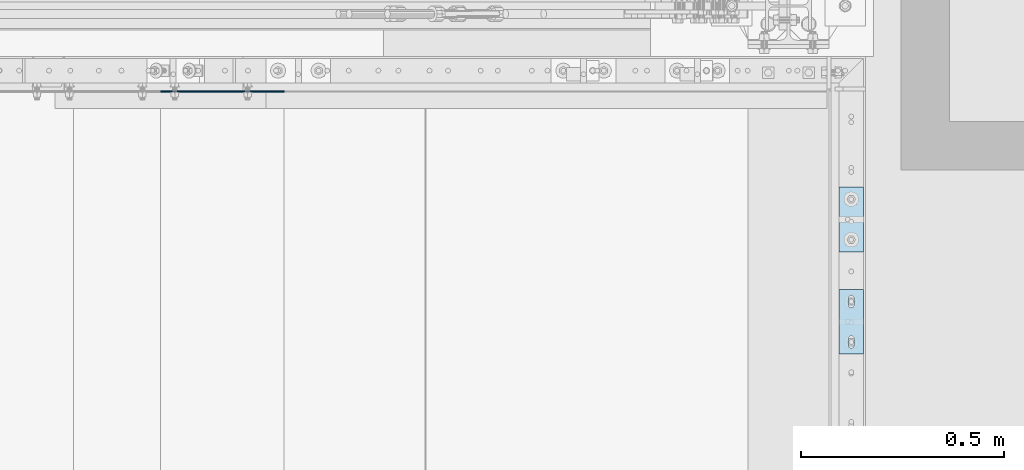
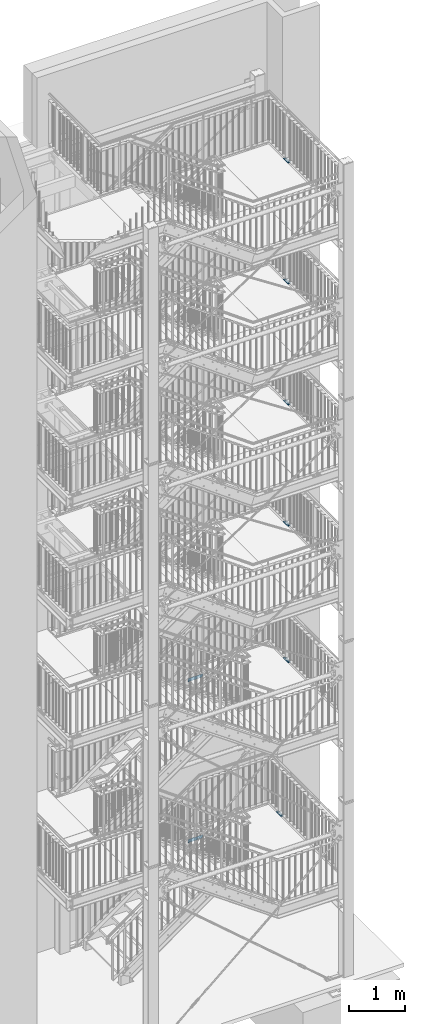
# One storey, part 206 of 825: 8 plates, 16 openings.
"""IFC2X3 building model written with IfcOpenShell, lengths in millimetres."""

from ifc_helpers import new_model, entity, si_unit, converted_unit, point, frame, frame_2d, origin, origin_with_axes, origin_2d_with_axis, place, context, project, spatial, polyline, circle_curve, line_curve, trimmed, segment, composite_curve, circle, outline, extrude, material, layer, layer_set, element, save


model = new_model("IFC2X3")

# Units and contexts
model_context = context("Model", 3, precision=1e-09, world=origin_with_axes())
ifc_project = project(units=[si_unit("LENGTHUNIT", "METRE", prefix="MILLI"), si_unit("AREAUNIT", "SQUARE_METRE"), si_unit("VOLUMEUNIT", "CUBIC_METRE"), converted_unit("PLANEANGLEUNIT", "DEGREE", entity("IfcPlaneAngleMeasure", 0.01745329), si_unit("PLANEANGLEUNIT", "RADIAN"), dimensions=[0, 0, 0, 0, 0, 0, 0])], contexts=[model_context])

# Site, building, storey
site_placement = place(None, origin_with_axes())
site = spatial("IfcSite", under=ifc_project, at=site_placement, Name="Cnopf'sche Kinderklinik", CompositionType="ELEMENT")
building_placement = place(site_placement, origin_with_axes())
building = spatial("IfcBuilding", under=site, at=building_placement, Name="Struktur 1", CompositionType="ELEMENT")
storey_placement = place(building_placement, origin_with_axes())
storey = spatial("IfcBuildingStorey", under=building, at=storey_placement, Name="Default Storey", CompositionType="ELEMENT", Elevation=0.0)

# Plate, openings
ifc_material = material(Name="S235JR")
ifc_layer_1 = layer(ifc_material, 20.0)
ifc_layer_set_1 = layer_set([ifc_layer_1], Name="S235JR")
plate_1_placement = place(None, frame((9051.713402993, 6909.429031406, 2181.0526312), z_axis=(0.0, 0.0, 1.0), x_axis=(0.0, 1.0, 0.0)))
plate_1 = element("IfcPlate", 1, at=plate_1_placement, inside=storey, material=ifc_layer_set_1, Name="Plate#504", ObjectType="Plate#504", context=model_context, shape_type="SweptSolid", body=[
    extrude(outline(polyline([(0.0, 0.0), (160.0, 0.0), (160.0, 60.0), (0.0, 60.0), (0.0, 0.0)])), origin_with_axes(), (0.0, 0.0, 1.0), 20.0),
])
opening_1_placement = place(plate_1_placement, frame((38.0, 37.001, 20.5), z_axis=(0.0, 0.0, 1.0), x_axis=(-1.0, 0.0, 0.0)))
element("IfcOpeningElement", 2, at=opening_1_placement, cuts=plate_1, ObjectType="Opening", context=model_context, shape_type="SweptSolid", body=[
    extrude(outline(composite_curve([segment(trimmed(line_curve((0.0, 0.0), (1.0, 0.0), 16.0), [point((0.0, 0.0))], [point((16.0, 0.0))], True, "CARTESIAN"), True, "CONTINUOUS"), segment(trimmed(circle_curve(frame_2d((16.0, 7.001), x_axis=(1.0, 0.0)), 7.001), [point((16.0, 0.0))], [point((16.0, 14.002))], True, "CARTESIAN"), True, "CONTINUOUS"), segment(trimmed(line_curve((16.0, 14.002), (-1.0, 0.0), 16.0), [point((16.0, 14.002))], [point((0.0, 14.002))], True, "CARTESIAN"), True, "CONTINUOUS"), segment(trimmed(circle_curve(frame_2d((0.0, 7.001), x_axis=(1.0, 0.0)), 7.001), [point((0.0, 14.002))], [point((0.0, 0.0))], True, "CARTESIAN"), True, "CONTINUOUS")], self_intersect=False)), origin(), (0.0, 0.0, -1.0), 21.0),
])
opening_2_placement = place(plate_1_placement, frame((138.0, 37.001, 20.5), z_axis=(0.0, 0.0, 1.0), x_axis=(-1.0, 0.0, 0.0)))
element("IfcOpeningElement", 3, at=opening_2_placement, cuts=plate_1, ObjectType="Opening", context=model_context, shape_type="SweptSolid", body=[
    extrude(outline(composite_curve([segment(trimmed(line_curve((0.0, 0.0), (1.0, 0.0), 16.0), [point((0.0, 0.0))], [point((16.0, 0.0))], True, "CARTESIAN"), True, "CONTINUOUS"), segment(trimmed(circle_curve(frame_2d((16.0, 7.001), x_axis=(1.0, 0.0)), 7.001), [point((16.0, 0.0))], [point((16.0, 14.002))], True, "CARTESIAN"), True, "CONTINUOUS"), segment(trimmed(line_curve((16.0, 14.002), (-1.0, 0.0), 16.0), [point((16.0, 14.002))], [point((0.0, 14.002))], True, "CARTESIAN"), True, "CONTINUOUS"), segment(trimmed(circle_curve(frame_2d((0.0, 7.001), x_axis=(1.0, 0.0)), 7.001), [point((0.0, 14.002))], [point((0.0, 0.0))], True, "CARTESIAN"), True, "CONTINUOUS")], self_intersect=False)), origin(), (0.0, 0.0, -1.0), 21.0),
])

plate_2_placement = place(None, frame((9051.713402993, 6656.736257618, 5674.8947367), z_axis=(0.0, 0.0, 1.0), x_axis=(0.0, 1.0, 0.0)))
plate_2 = element("IfcPlate", 4, at=plate_2_placement, inside=storey, material=ifc_layer_set_1, Name="Plate#505", ObjectType="Plate#505", context=model_context, shape_type="SweptSolid", body=[
    extrude(outline(polyline([(0.0, 0.0), (160.0, 0.0), (160.0, 60.0), (0.0, 60.0), (0.0, 0.0)])), origin_with_axes(), (0.0, 0.0, 1.0), 20.0),
])
opening_3_placement = place(plate_2_placement, frame((38.0, 37.001, 20.5), z_axis=(0.0, 0.0, 1.0), x_axis=(-1.0, 0.0, 0.0)))
element("IfcOpeningElement", 5, at=opening_3_placement, cuts=plate_2, ObjectType="Opening", context=model_context, shape_type="SweptSolid", body=[
    extrude(outline(composite_curve([segment(trimmed(line_curve((0.0, 0.0), (1.0, 0.0), 16.0), [point((0.0, 0.0))], [point((16.0, 0.0))], True, "CARTESIAN"), True, "CONTINUOUS"), segment(trimmed(circle_curve(frame_2d((16.0, 7.001), x_axis=(1.0, 0.0)), 7.001), [point((16.0, 0.0))], [point((16.0, 14.002))], True, "CARTESIAN"), True, "CONTINUOUS"), segment(trimmed(line_curve((16.0, 14.002), (-1.0, 0.0), 16.0), [point((16.0, 14.002))], [point((0.0, 14.002))], True, "CARTESIAN"), True, "CONTINUOUS"), segment(trimmed(circle_curve(frame_2d((0.0, 7.001), x_axis=(1.0, 0.0)), 7.001), [point((0.0, 14.002))], [point((0.0, 0.0))], True, "CARTESIAN"), True, "CONTINUOUS")], self_intersect=False)), origin(), (0.0, 0.0, -1.0), 21.0),
])
opening_4_placement = place(plate_2_placement, frame((138.0, 37.001, 20.5), z_axis=(0.0, 0.0, 1.0), x_axis=(-1.0, 0.0, 0.0)))
element("IfcOpeningElement", 6, at=opening_4_placement, cuts=plate_2, ObjectType="Opening", context=model_context, shape_type="SweptSolid", body=[
    extrude(outline(composite_curve([segment(trimmed(line_curve((0.0, 0.0), (1.0, 0.0), 16.0), [point((0.0, 0.0))], [point((16.0, 0.0))], True, "CARTESIAN"), True, "CONTINUOUS"), segment(trimmed(circle_curve(frame_2d((16.0, 7.001), x_axis=(1.0, 0.0)), 7.001), [point((16.0, 0.0))], [point((16.0, 14.002))], True, "CARTESIAN"), True, "CONTINUOUS"), segment(trimmed(line_curve((16.0, 14.002), (-1.0, 0.0), 16.0), [point((16.0, 14.002))], [point((0.0, 14.002))], True, "CARTESIAN"), True, "CONTINUOUS"), segment(trimmed(circle_curve(frame_2d((0.0, 7.001), x_axis=(1.0, 0.0)), 7.001), [point((0.0, 14.002))], [point((0.0, 0.0))], True, "CARTESIAN"), True, "CONTINUOUS")], self_intersect=False)), origin(), (0.0, 0.0, -1.0), 21.0),
])

plate_3_placement = place(None, frame((9051.713402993, 6656.736257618, 8636.0), z_axis=(0.0, 0.0, 1.0), x_axis=(0.0, 1.0, 0.0)))
plate_3 = element("IfcPlate", 7, at=plate_3_placement, inside=storey, material=ifc_layer_set_1, Name="Plate#505", ObjectType="Plate#505", context=model_context, shape_type="SweptSolid", body=[
    extrude(outline(polyline([(0.0, 0.0), (160.0, 0.0), (160.0, 60.0), (0.0, 60.0), (0.0, 0.0)])), origin_with_axes(), (0.0, 0.0, 1.0), 20.0),
])
opening_5_placement = place(plate_3_placement, frame((38.0, 37.001, 20.5), z_axis=(0.0, 0.0, 1.0), x_axis=(-1.0, 0.0, 0.0)))
element("IfcOpeningElement", 8, at=opening_5_placement, cuts=plate_3, ObjectType="Opening", context=model_context, shape_type="SweptSolid", body=[
    extrude(outline(composite_curve([segment(trimmed(line_curve((0.0, 0.0), (1.0, 0.0), 16.0), [point((0.0, 0.0))], [point((16.0, 0.0))], True, "CARTESIAN"), True, "CONTINUOUS"), segment(trimmed(circle_curve(frame_2d((16.0, 7.001), x_axis=(1.0, 0.0)), 7.001), [point((16.0, 0.0))], [point((16.0, 14.002))], True, "CARTESIAN"), True, "CONTINUOUS"), segment(trimmed(line_curve((16.0, 14.002), (-1.0, 0.0), 16.0), [point((16.0, 14.002))], [point((0.0, 14.002))], True, "CARTESIAN"), True, "CONTINUOUS"), segment(trimmed(circle_curve(frame_2d((0.0, 7.001), x_axis=(1.0, 0.0)), 7.001), [point((0.0, 14.002))], [point((0.0, 0.0))], True, "CARTESIAN"), True, "CONTINUOUS")], self_intersect=False)), origin(), (0.0, 0.0, -1.0), 21.0),
])
opening_6_placement = place(plate_3_placement, frame((138.0, 37.001, 20.5), z_axis=(0.0, 0.0, 1.0), x_axis=(-1.0, 0.0, 0.0)))
element("IfcOpeningElement", 9, at=opening_6_placement, cuts=plate_3, ObjectType="Opening", context=model_context, shape_type="SweptSolid", body=[
    extrude(outline(composite_curve([segment(trimmed(line_curve((0.0, 0.0), (1.0, 0.0), 16.0), [point((0.0, 0.0))], [point((16.0, 0.0))], True, "CARTESIAN"), True, "CONTINUOUS"), segment(trimmed(circle_curve(frame_2d((16.0, 7.001), x_axis=(1.0, 0.0)), 7.001), [point((16.0, 0.0))], [point((16.0, 14.002))], True, "CARTESIAN"), True, "CONTINUOUS"), segment(trimmed(line_curve((16.0, 14.002), (-1.0, 0.0), 16.0), [point((16.0, 14.002))], [point((0.0, 14.002))], True, "CARTESIAN"), True, "CONTINUOUS"), segment(trimmed(circle_curve(frame_2d((0.0, 7.001), x_axis=(1.0, 0.0)), 7.001), [point((0.0, 14.002))], [point((0.0, 0.0))], True, "CARTESIAN"), True, "CONTINUOUS")], self_intersect=False)), origin(), (0.0, 0.0, -1.0), 21.0),
])

plate_4_placement = place(None, frame((9051.713402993, 6656.736257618, 11265.5000003), z_axis=(0.0, 0.0, 1.0), x_axis=(0.0, 1.0, 0.0)))
plate_4 = element("IfcPlate", 10, at=plate_4_placement, inside=storey, material=ifc_layer_set_1, Name="Plate#505", ObjectType="Plate#505", context=model_context, shape_type="SweptSolid", body=[
    extrude(outline(polyline([(0.0, 0.0), (160.0, 0.0), (160.0, 60.0), (0.0, 60.0), (0.0, 0.0)])), origin_with_axes(), (0.0, 0.0, 1.0), 20.0),
])
opening_7_placement = place(plate_4_placement, frame((38.0, 37.001, 20.5), z_axis=(0.0, 0.0, 1.0), x_axis=(-1.0, 0.0, 0.0)))
element("IfcOpeningElement", 11, at=opening_7_placement, cuts=plate_4, ObjectType="Opening", context=model_context, shape_type="SweptSolid", body=[
    extrude(outline(composite_curve([segment(trimmed(line_curve((0.0, 0.0), (1.0, 0.0), 16.0), [point((0.0, 0.0))], [point((16.0, 0.0))], True, "CARTESIAN"), True, "CONTINUOUS"), segment(trimmed(circle_curve(frame_2d((16.0, 7.001), x_axis=(1.0, 0.0)), 7.001), [point((16.0, 0.0))], [point((16.0, 14.002))], True, "CARTESIAN"), True, "CONTINUOUS"), segment(trimmed(line_curve((16.0, 14.002), (-1.0, 0.0), 16.0), [point((16.0, 14.002))], [point((0.0, 14.002))], True, "CARTESIAN"), True, "CONTINUOUS"), segment(trimmed(circle_curve(frame_2d((0.0, 7.001), x_axis=(1.0, 0.0)), 7.001), [point((0.0, 14.002))], [point((0.0, 0.0))], True, "CARTESIAN"), True, "CONTINUOUS")], self_intersect=False)), origin(), (0.0, 0.0, -1.0), 21.0),
])
opening_8_placement = place(plate_4_placement, frame((138.0, 37.001, 20.5), z_axis=(0.0, 0.0, 1.0), x_axis=(-1.0, 0.0, 0.0)))
element("IfcOpeningElement", 12, at=opening_8_placement, cuts=plate_4, ObjectType="Opening", context=model_context, shape_type="SweptSolid", body=[
    extrude(outline(composite_curve([segment(trimmed(line_curve((0.0, 0.0), (1.0, 0.0), 16.0), [point((0.0, 0.0))], [point((16.0, 0.0))], True, "CARTESIAN"), True, "CONTINUOUS"), segment(trimmed(circle_curve(frame_2d((16.0, 7.001), x_axis=(1.0, 0.0)), 7.001), [point((16.0, 0.0))], [point((16.0, 14.002))], True, "CARTESIAN"), True, "CONTINUOUS"), segment(trimmed(line_curve((16.0, 14.002), (-1.0, 0.0), 16.0), [point((16.0, 14.002))], [point((0.0, 14.002))], True, "CARTESIAN"), True, "CONTINUOUS"), segment(trimmed(circle_curve(frame_2d((0.0, 7.001), x_axis=(1.0, 0.0)), 7.001), [point((0.0, 14.002))], [point((0.0, 0.0))], True, "CARTESIAN"), True, "CONTINUOUS")], self_intersect=False)), origin(), (0.0, 0.0, -1.0), 21.0),
])

plate_5_placement = place(None, frame((9051.713402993, 6656.736257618, 13896.5000001), z_axis=(0.0, 0.0, 1.0), x_axis=(0.0, 1.0, 0.0)))
plate_5 = element("IfcPlate", 13, at=plate_5_placement, inside=storey, material=ifc_layer_set_1, Name="Plate#505", ObjectType="Plate#505", context=model_context, shape_type="SweptSolid", body=[
    extrude(outline(polyline([(0.0, 0.0), (160.0, 0.0), (160.0, 60.0), (0.0, 60.0), (0.0, 0.0)])), origin_with_axes(), (0.0, 0.0, 1.0), 20.0),
])
opening_9_placement = place(plate_5_placement, frame((38.0, 37.001, 20.5), z_axis=(0.0, 0.0, 1.0), x_axis=(-1.0, 0.0, 0.0)))
element("IfcOpeningElement", 14, at=opening_9_placement, cuts=plate_5, ObjectType="Opening", context=model_context, shape_type="SweptSolid", body=[
    extrude(outline(composite_curve([segment(trimmed(line_curve((0.0, 0.0), (1.0, 0.0), 16.0), [point((0.0, 0.0))], [point((16.0, 0.0))], True, "CARTESIAN"), True, "CONTINUOUS"), segment(trimmed(circle_curve(frame_2d((16.0, 7.001), x_axis=(1.0, 0.0)), 7.001), [point((16.0, 0.0))], [point((16.0, 14.002))], True, "CARTESIAN"), True, "CONTINUOUS"), segment(trimmed(line_curve((16.0, 14.002), (-1.0, 0.0), 16.0), [point((16.0, 14.002))], [point((0.0, 14.002))], True, "CARTESIAN"), True, "CONTINUOUS"), segment(trimmed(circle_curve(frame_2d((0.0, 7.001), x_axis=(1.0, 0.0)), 7.001), [point((0.0, 14.002))], [point((0.0, 0.0))], True, "CARTESIAN"), True, "CONTINUOUS")], self_intersect=False)), origin(), (0.0, 0.0, -1.0), 21.0),
])
opening_10_placement = place(plate_5_placement, frame((138.0, 37.001, 20.5), z_axis=(0.0, 0.0, 1.0), x_axis=(-1.0, 0.0, 0.0)))
element("IfcOpeningElement", 15, at=opening_10_placement, cuts=plate_5, ObjectType="Opening", context=model_context, shape_type="SweptSolid", body=[
    extrude(outline(composite_curve([segment(trimmed(line_curve((0.0, 0.0), (1.0, 0.0), 16.0), [point((0.0, 0.0))], [point((16.0, 0.0))], True, "CARTESIAN"), True, "CONTINUOUS"), segment(trimmed(circle_curve(frame_2d((16.0, 7.001), x_axis=(1.0, 0.0)), 7.001), [point((16.0, 0.0))], [point((16.0, 14.002))], True, "CARTESIAN"), True, "CONTINUOUS"), segment(trimmed(line_curve((16.0, 14.002), (-1.0, 0.0), 16.0), [point((16.0, 14.002))], [point((0.0, 14.002))], True, "CARTESIAN"), True, "CONTINUOUS"), segment(trimmed(circle_curve(frame_2d((0.0, 7.001), x_axis=(1.0, 0.0)), 7.001), [point((0.0, 14.002))], [point((0.0, 0.0))], True, "CARTESIAN"), True, "CONTINUOUS")], self_intersect=False)), origin(), (0.0, 0.0, -1.0), 21.0),
])

ifc_layer_2 = layer(ifc_material, 3.0)
ifc_layer_set_2 = layer_set([ifc_layer_2], Name="S235JR")
plate_6_placement = place(None, frame((7316.713402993, 7306.736971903, 2035.947368), z_axis=(0.0, -1.0, 0.0), x_axis=(0.0, 0.0, -1.0)))
plate_6 = element("IfcPlate", 16, at=plate_6_placement, inside=storey, material=ifc_layer_set_2, Name="Grate_Step#58", ObjectType="Grate_Step#58", context=model_context, shape_type="SweptSolid", body=[
    extrude(outline(polyline([(0.0, 0.0), (70.0, 0.0), (70.0, 275.0), (40.0, 305.0), (0.0, 305.0), (0.0, 0.0)])), origin_with_axes(), (0.0, 0.0, 1.0), 3.0),
])
opening_11_placement = place(plate_6_placement, frame((55.0, 35.0, 3.5), z_axis=(0.0, 0.0, -1.0), x_axis=(0.0, 1.0, 0.0)))
element("IfcOpeningElement", 17, at=opening_11_placement, cuts=plate_6, ObjectType="Opening", context=model_context, shape_type="SweptSolid", body=[
    extrude(circle(Radius=7.001, at=origin_2d_with_axis()), origin(), (0.0, 0.0, 1.0), 4.0),
])
opening_12_placement = place(plate_6_placement, frame((55.0, 215.0, 3.5), z_axis=(0.0, 0.0, -1.0), x_axis=(0.0, 1.0, 0.0)))
element("IfcOpeningElement", 18, at=opening_12_placement, cuts=plate_6, ObjectType="Opening", context=model_context, shape_type="SweptSolid", body=[
    extrude(outline(composite_curve([segment(trimmed(line_curve((-9.5, -7.001), (1.0, 0.0), 19.0), [point((-9.5, -7.001))], [point((9.5, -7.001))], True, "CARTESIAN"), True, "CONTINUOUS"), segment(trimmed(circle_curve(frame_2d((9.5, 0.0), x_axis=(1.0, 0.0)), 7.001), [point((9.5, -7.001))], [point((9.5, 7.001))], True, "CARTESIAN"), True, "CONTINUOUS"), segment(trimmed(line_curve((9.5, 7.001), (-1.0, 0.0), 19.0), [point((9.5, 7.001))], [point((-9.5, 7.001))], True, "CARTESIAN"), True, "CONTINUOUS"), segment(trimmed(circle_curve(frame_2d((-9.5, 0.0), x_axis=(1.0, 0.0)), 7.001), [point((-9.5, 7.001))], [point((-9.5, -7.001))], True, "CARTESIAN"), True, "CONTINUOUS")], self_intersect=False)), origin(), (0.0, 0.0, 1.0), 4.0),
])

plate_7_placement = place(None, frame((7316.713402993, 7306.736971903, 5532.105263), z_axis=(0.0, -1.0, 0.0), x_axis=(0.0, 0.0, -1.0)))
plate_7 = element("IfcPlate", 19, at=plate_7_placement, inside=storey, material=ifc_layer_set_2, Name="Grate_Step#58", ObjectType="Grate_Step#58", context=model_context, shape_type="SweptSolid", body=[
    extrude(outline(polyline([(0.0, 0.0), (70.0, 0.0), (70.0, 275.0), (40.0, 305.0), (0.0, 305.0), (0.0, 0.0)])), origin_with_axes(), (0.0, 0.0, 1.0), 3.0),
])
opening_13_placement = place(plate_7_placement, frame((55.0, 35.0, 3.5), z_axis=(0.0, 0.0, -1.0), x_axis=(0.0, 1.0, 0.0)))
element("IfcOpeningElement", 20, at=opening_13_placement, cuts=plate_7, ObjectType="Opening", context=model_context, shape_type="SweptSolid", body=[
    extrude(circle(Radius=7.001, at=origin_2d_with_axis()), origin(), (0.0, 0.0, 1.0), 4.0),
])
opening_14_placement = place(plate_7_placement, frame((55.0, 215.0, 3.5), z_axis=(0.0, 0.0, -1.0), x_axis=(0.0, 1.0, 0.0)))
element("IfcOpeningElement", 21, at=opening_14_placement, cuts=plate_7, ObjectType="Opening", context=model_context, shape_type="SweptSolid", body=[
    extrude(outline(composite_curve([segment(trimmed(line_curve((-9.5, -7.001), (1.0, 0.0), 19.0), [point((-9.5, -7.001))], [point((9.5, -7.001))], True, "CARTESIAN"), True, "CONTINUOUS"), segment(trimmed(circle_curve(frame_2d((9.5, 0.0), x_axis=(1.0, 0.0)), 7.001), [point((9.5, -7.001))], [point((9.5, 7.001))], True, "CARTESIAN"), True, "CONTINUOUS"), segment(trimmed(line_curve((9.5, 7.001), (-1.0, 0.0), 19.0), [point((9.5, 7.001))], [point((-9.5, 7.001))], True, "CARTESIAN"), True, "CONTINUOUS"), segment(trimmed(circle_curve(frame_2d((-9.5, 0.0), x_axis=(1.0, 0.0)), 7.001), [point((-9.5, 7.001))], [point((-9.5, -7.001))], True, "CARTESIAN"), True, "CONTINUOUS")], self_intersect=False)), origin(), (0.0, 0.0, 1.0), 4.0),
])

plate_8_placement = place(None, frame((9051.713402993, 6656.736257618, 16524.0000003), z_axis=(0.0, 0.0, 1.0), x_axis=(0.0, 1.0, 0.0)))
plate_8 = element("IfcPlate", 22, at=plate_8_placement, inside=storey, material=ifc_layer_set_1, Name="Plate#505", ObjectType="Plate#505", context=model_context, shape_type="SweptSolid", body=[
    extrude(outline(polyline([(0.0, 0.0), (160.0, 0.0), (160.0, 60.0), (0.0, 60.0), (0.0, 0.0)])), origin_with_axes(), (0.0, 0.0, 1.0), 20.0),
])
opening_15_placement = place(plate_8_placement, frame((38.0, 37.001, 20.5), z_axis=(0.0, 0.0, 1.0), x_axis=(-1.0, 0.0, 0.0)))
element("IfcOpeningElement", 23, at=opening_15_placement, cuts=plate_8, ObjectType="Opening", context=model_context, shape_type="SweptSolid", body=[
    extrude(outline(composite_curve([segment(trimmed(line_curve((0.0, 0.0), (1.0, 0.0), 16.0), [point((0.0, 0.0))], [point((16.0, 0.0))], True, "CARTESIAN"), True, "CONTINUOUS"), segment(trimmed(circle_curve(frame_2d((16.0, 7.001), x_axis=(1.0, 0.0)), 7.001), [point((16.0, 0.0))], [point((16.0, 14.002))], True, "CARTESIAN"), True, "CONTINUOUS"), segment(trimmed(line_curve((16.0, 14.002), (-1.0, 0.0), 16.0), [point((16.0, 14.002))], [point((0.0, 14.002))], True, "CARTESIAN"), True, "CONTINUOUS"), segment(trimmed(circle_curve(frame_2d((0.0, 7.001), x_axis=(1.0, 0.0)), 7.001), [point((0.0, 14.002))], [point((0.0, 0.0))], True, "CARTESIAN"), True, "CONTINUOUS")], self_intersect=False)), origin(), (0.0, 0.0, -1.0), 21.0),
])
opening_16_placement = place(plate_8_placement, frame((138.0, 37.001, 20.5), z_axis=(0.0, 0.0, 1.0), x_axis=(-1.0, 0.0, 0.0)))
element("IfcOpeningElement", 24, at=opening_16_placement, cuts=plate_8, ObjectType="Opening", context=model_context, shape_type="SweptSolid", body=[
    extrude(outline(composite_curve([segment(trimmed(line_curve((0.0, 0.0), (1.0, 0.0), 16.0), [point((0.0, 0.0))], [point((16.0, 0.0))], True, "CARTESIAN"), True, "CONTINUOUS"), segment(trimmed(circle_curve(frame_2d((16.0, 7.001), x_axis=(1.0, 0.0)), 7.001), [point((16.0, 0.0))], [point((16.0, 14.002))], True, "CARTESIAN"), True, "CONTINUOUS"), segment(trimmed(line_curve((16.0, 14.002), (-1.0, 0.0), 16.0), [point((16.0, 14.002))], [point((0.0, 14.002))], True, "CARTESIAN"), True, "CONTINUOUS"), segment(trimmed(circle_curve(frame_2d((0.0, 7.001), x_axis=(1.0, 0.0)), 7.001), [point((0.0, 14.002))], [point((0.0, 0.0))], True, "CARTESIAN"), True, "CONTINUOUS")], self_intersect=False)), origin(), (0.0, 0.0, -1.0), 21.0),
])

save(model, "model.ifc")
